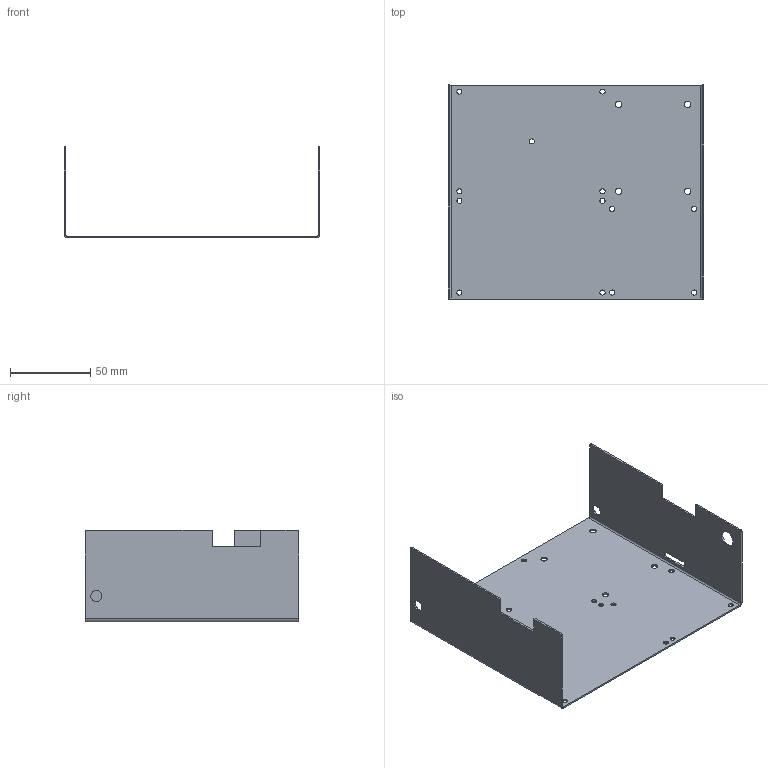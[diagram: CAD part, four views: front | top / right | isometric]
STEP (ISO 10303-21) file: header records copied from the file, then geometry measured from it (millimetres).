
FILE_DESCRIPTION(('FreeCAD Model'),'2;1');
FILE_NAME('Open CASCADE Shape Model','2021-12-18T23:29:27',('Author'),( ''),'Open CASCADE STEP processor 7.4','FreeCAD','Unknown');
FILE_SCHEMA(('AUTOMOTIVE_DESIGN { 1 0 10303 214 1 1 1 1 }'));
Length unit declared in the file: millimetre
Products named in the file (1): Cut007
Bounding box: 159 x 133 x 57 mm (x, y, z)
Volume: 34892.6 mm3; surface area: 70927.2 mm2
Topology: 1 solids, 1 shells, 58 faces, 152 edges, 96 vertices
Faces by surface type: plane 30, cylinder 28
Full cylindrical faces by diameter (mm): 3.2 x13, 4 x4, 7 x2, 10 x1
Entity records: 3846 total; most frequent: CARTESIAN_POINT 703, DIRECTION 578, ORIENTED_EDGE 304, PCURVE 304, DEFINITIONAL_REPRESENTATION 304, LINE 300, VECTOR 300, EDGE_CURVE 152
